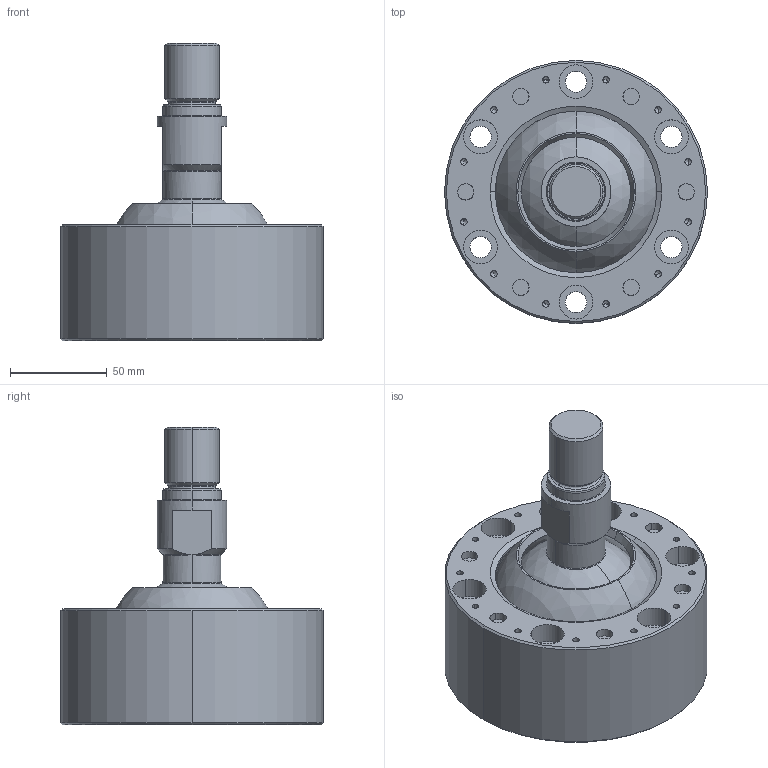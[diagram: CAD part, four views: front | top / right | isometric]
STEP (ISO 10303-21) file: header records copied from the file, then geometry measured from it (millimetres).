
FILE_DESCRIPTION (( 'STEP AP203' ), '1' );
FILE_NAME ('SRJ048CP.STEP', '2023-03-31T01:35:44', ( '' ), ( '' ), 'SwSTEP 2.0', 'SolidWorks 2023', '' );
FILE_SCHEMA (( 'CONFIG_CONTROL_DESIGN' ));
Length unit declared in the file: millimetre
Products named in the file (1): SRJ048CP
Bounding box: 136 x 136 x 154.1 mm (x, y, z)
Volume: 856715.2 mm3; surface area: 166321.6 mm2
Topology: 9 solids, 9 shells, 354 faces, 818 edges, 479 vertices
Faces by surface type: cylinder 124, plane 120, cone 66, torus 32, sphere 8, bspline 4
Entity records: 9791 total; most frequent: DIRECTION 1856, CARTESIAN_POINT 1684, ORIENTED_EDGE 1516, AXIS2_PLACEMENT_3D 759, EDGE_CURVE 758, VERTEX_POINT 467, EDGE_LOOP 427, CIRCLE 408
